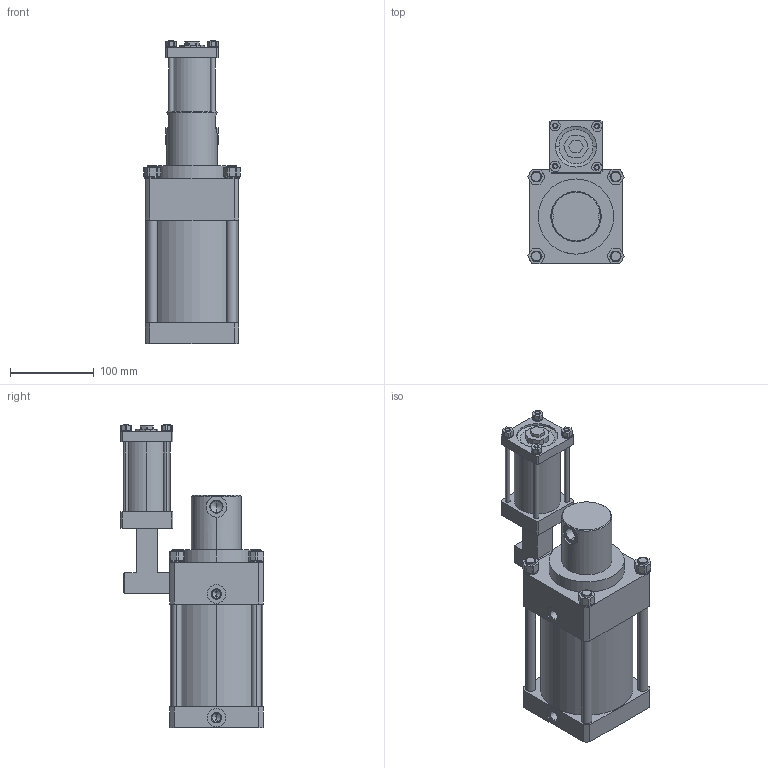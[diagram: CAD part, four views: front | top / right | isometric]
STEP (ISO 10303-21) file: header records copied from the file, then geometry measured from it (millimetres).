
FILE_DESCRIPTION (( 'STEP AP203' ), '1' );
FILE_NAME ('6210 200.STEP', '2016-01-29T11:08:26', ( '' ), ( '' ), 'SwSTEP 2.0', 'SolidWorks 2015', '' );
FILE_SCHEMA (( 'CONFIG_CONTROL_DESIGN' ));
Length unit declared in the file: millimetre
Products named in the file (1): 6210 200
Bounding box: 115.03 x 171.5 x 363.1 mm (x, y, z)
Volume: 2862999 mm3; surface area: 205029.4 mm2
Topology: 1 solids, 1 shells, 453 faces, 1114 edges, 702 vertices
Faces by surface type: plane 301, cylinder 96, cone 40, torus 16
Entity records: 13427 total; most frequent: CARTESIAN_POINT 2430, DIRECTION 2312, ORIENTED_EDGE 2204, EDGE_CURVE 1102, LINE 784, VECTOR 784, AXIS2_PLACEMENT_3D 764, VERTEX_POINT 702
